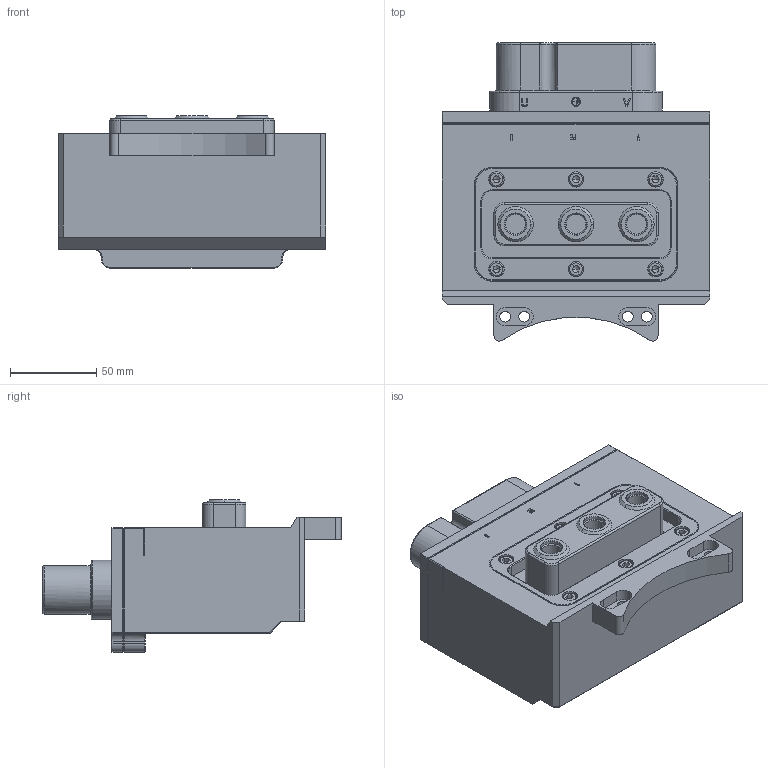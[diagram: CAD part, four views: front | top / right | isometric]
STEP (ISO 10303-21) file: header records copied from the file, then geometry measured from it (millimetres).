
FILE_DESCRIPTION (( 'STEP AP203' ), '1' );
FILE_NAME ('QCSM-03R.STEP', '2024-08-27T08:04:56', ( 'Windows 蚚誧' ), ( 'Organization' ), 'SwSTEP 2.0', 'SolidWorks 2018', '' );
FILE_SCHEMA (( 'CONFIG_CONTROL_DESIGN' ));
Length unit declared in the file: millimetre
Products named in the file (1): QCSM-03R
Bounding box: 155 x 172.63 x 88 mm (x, y, z)
Volume: 1131559 mm3; surface area: 143357.3 mm2
Topology: 1 solids, 55 shells, 1713 faces, 4093 edges, 2504 vertices
Faces by surface type: plane 838, cylinder 481, cone 261, torus 87, bspline 42, sphere 4
Entity records: 50632 total; most frequent: CARTESIAN_POINT 10538, DIRECTION 8700, ORIENTED_EDGE 7986, EDGE_CURVE 3993, AXIS2_PLACEMENT_3D 3177, VERTEX_POINT 2504, VECTOR 2346, LINE 2346
